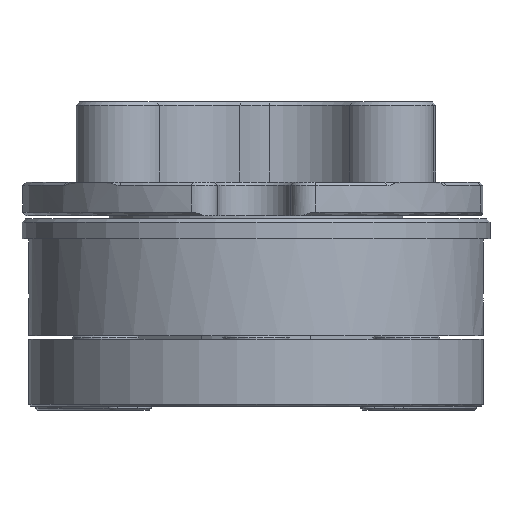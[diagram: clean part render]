
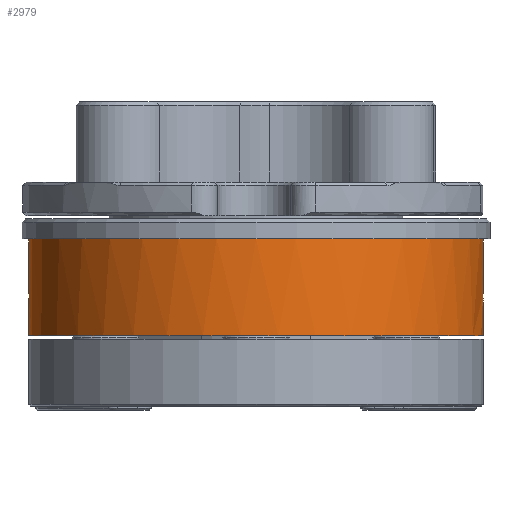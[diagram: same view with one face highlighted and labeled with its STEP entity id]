
A CAD part, left-side view. The second image highlights one B-rep face of the part: STEP entity #2979.
In plain terms, the highlighted cylindrical face has radius 34 mm (diameter 68 mm), a full revolution.
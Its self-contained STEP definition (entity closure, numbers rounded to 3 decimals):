
#1862=B_SPLINE_CURVE_WITH_KNOTS('',3,(#11817,#11818,#11819,#11820,#11821,
#11822,#11823,#11824,#11825,#11826,#11827,#11828,#11829),.UNSPECIFIED.,
 .T.,.F.,(1,3,3,3,3,3,1),(-0.25,0.,0.25,0.5,0.75,1.,1.25),.UNSPECIFIED.);
#1863=B_SPLINE_CURVE_WITH_KNOTS('',3,(#11867,#11868,#11869,#11870,#11871,
#11872,#11873,#11874,#11875,#11876,#11877,#11878,#11879),.UNSPECIFIED.,
 .T.,.F.,(1,3,3,3,3,3,1),(-0.25,0.,0.25,0.5,0.75,1.,1.25),.UNSPECIFIED.);
#1864=B_SPLINE_CURVE_WITH_KNOTS('',3,(#11922,#11923,#11924,#11925,#11926,
#11927,#11928,#11929,#11930,#11931),.UNSPECIFIED.,.F.,.F.,(4,3,3,4),(0.,
0.327,0.817,1.),.UNSPECIFIED.);
#1865=B_SPLINE_CURVE_WITH_KNOTS('',3,(#11939,#11940,#11941,#11942,#11943,
#11944,#11945),.UNSPECIFIED.,.F.,.F.,(4,3,4),(0.,0.309,1.),
 .UNSPECIFIED.);
#2093=CYLINDRICAL_SURFACE('',#8432,34.);
#2308=FACE_BOUND('',#3877,.T.);
#2309=FACE_BOUND('',#3878,.T.);
#2310=FACE_BOUND('',#3879,.T.);
#2311=FACE_BOUND('',#3880,.T.);
#2568=CIRCLE('',#8413,34.);
#2574=CIRCLE('',#8422,34.);
#2578=CIRCLE('',#8428,34.);
#2579=CIRCLE('',#8429,34.);
#2580=CIRCLE('',#8431,34.);
#2979=ADVANCED_FACE('',(#2308,#2309,#2310,#2311),#2093,.T.);
#3877=EDGE_LOOP('',(#5128));
#3878=EDGE_LOOP('',(#5129));
#3879=EDGE_LOOP('',(#5130,#5131,#5132,#5133,#5134,#5135,#5136,#5137));
#3880=EDGE_LOOP('',(#5138));
#5128=ORIENTED_EDGE('',*,*,#6796,.T.);
#5129=ORIENTED_EDGE('',*,*,#6797,.T.);
#5130=ORIENTED_EDGE('',*,*,#6800,.T.);
#5131=ORIENTED_EDGE('',*,*,#6802,.T.);
#5132=ORIENTED_EDGE('',*,*,#6804,.T.);
#5133=ORIENTED_EDGE('',*,*,#6816,.T.);
#5134=ORIENTED_EDGE('',*,*,#6808,.T.);
#5135=ORIENTED_EDGE('',*,*,#6810,.T.);
#5136=ORIENTED_EDGE('',*,*,#6812,.T.);
#5137=ORIENTED_EDGE('',*,*,#6815,.T.);
#5138=ORIENTED_EDGE('',*,*,#6817,.F.);
#6068=VERTEX_POINT('',#11830);
#6069=VERTEX_POINT('',#11880);
#6071=VERTEX_POINT('',#11919);
#6072=VERTEX_POINT('',#11921);
#6073=VERTEX_POINT('',#11934);
#6075=VERTEX_POINT('',#11946);
#6076=VERTEX_POINT('',#11950);
#6077=VERTEX_POINT('',#11952);
#6078=VERTEX_POINT('',#11956);
#6079=VERTEX_POINT('',#11960);
#6082=VERTEX_POINT('',#11971);
#6796=EDGE_CURVE('',#6068,#6068,#1862,.T.);
#6797=EDGE_CURVE('',#6069,#6069,#1863,.T.);
#6800=EDGE_CURVE('',#6071,#6072,#1864,.T.);
#6802=EDGE_CURVE('',#6072,#6073,#2568,.T.);
#6804=EDGE_CURVE('',#6073,#6075,#1865,.T.);
#6808=EDGE_CURVE('',#6076,#6077,#7420,.T.);
#6810=EDGE_CURVE('',#6077,#6078,#2574,.T.);
#6812=EDGE_CURVE('',#6078,#6079,#7421,.T.);
#6815=EDGE_CURVE('',#6079,#6071,#2578,.T.);
#6816=EDGE_CURVE('',#6075,#6076,#2579,.T.);
#6817=EDGE_CURVE('',#6082,#6082,#2580,.T.);
#7420=LINE('',#11953,#7857);
#7421=LINE('',#11961,#7858);
#7857=VECTOR('',#9930,1.);
#7858=VECTOR('',#9941,1.);
#8413=AXIS2_PLACEMENT_3D('',#11936,#9916,#9917);
#8422=AXIS2_PLACEMENT_3D('',#11957,#9935,#9936);
#8428=AXIS2_PLACEMENT_3D('',#11967,#9948,#9949);
#8429=AXIS2_PLACEMENT_3D('',#11968,#9950,#9951);
#8431=AXIS2_PLACEMENT_3D('',#11970,#9954,#9955);
#8432=AXIS2_PLACEMENT_3D('',#11972,#9956,#9957);
#9916=DIRECTION('',(0.,0.,1.));
#9917=DIRECTION('',(-1.,0.,0.));
#9930=DIRECTION('',(0.,0.,-1.));
#9935=DIRECTION('',(0.,0.,1.));
#9936=DIRECTION('',(0.,1.,0.));
#9941=DIRECTION('',(0.,0.,1.));
#9948=DIRECTION('',(0.,0.,1.));
#9949=DIRECTION('',(-1.,0.,0.));
#9950=DIRECTION('',(0.,0.,1.));
#9951=DIRECTION('',(-1.,0.,0.));
#9954=DIRECTION('',(0.,0.,1.));
#9955=DIRECTION('',(0.,1.,0.));
#9956=DIRECTION('',(0.,0.,-1.));
#9957=DIRECTION('',(-1.,0.,0.));
#11817=CARTESIAN_POINT('',(1.817,33.951,13.4));
#11818=CARTESIAN_POINT('',(1.816,33.951,14.388));
#11819=CARTESIAN_POINT('',(1.005,34.,15.19));
#11820=CARTESIAN_POINT('',(0.001,34.,15.191));
#11821=CARTESIAN_POINT('',(-1.003,34.,15.191));
#11822=CARTESIAN_POINT('',(-1.816,33.951,14.388));
#11823=CARTESIAN_POINT('',(-1.817,33.951,13.4));
#11824=CARTESIAN_POINT('',(-1.817,33.951,12.412));
#11825=CARTESIAN_POINT('',(-1.001,34.,11.61));
#11826=CARTESIAN_POINT('',(0.001,34.,11.609));
#11827=CARTESIAN_POINT('',(1.003,34.,11.609));
#11828=CARTESIAN_POINT('',(1.817,33.951,12.412));
#11829=CARTESIAN_POINT('',(1.817,33.951,13.4));
#11830=CARTESIAN_POINT('',(1.817,33.951,13.4));
#11867=CARTESIAN_POINT('',(-1.817,-33.951,13.4));
#11868=CARTESIAN_POINT('',(-1.816,-33.951,14.388));
#11869=CARTESIAN_POINT('',(-1.005,-34.,15.19));
#11870=CARTESIAN_POINT('',(-0.001,-34.,15.191));
#11871=CARTESIAN_POINT('',(1.003,-34.,15.191));
#11872=CARTESIAN_POINT('',(1.816,-33.951,14.388));
#11873=CARTESIAN_POINT('',(1.817,-33.951,13.4));
#11874=CARTESIAN_POINT('',(1.817,-33.951,12.412));
#11875=CARTESIAN_POINT('',(1.001,-34.,11.61));
#11876=CARTESIAN_POINT('',(-0.001,-34.,11.609));
#11877=CARTESIAN_POINT('',(-1.003,-34.,11.609));
#11878=CARTESIAN_POINT('',(-1.817,-33.951,12.412));
#11879=CARTESIAN_POINT('',(-1.817,-33.951,13.4));
#11880=CARTESIAN_POINT('',(-1.817,-33.951,13.4));
#11919=CARTESIAN_POINT('',(15.357,-30.334,14.9));
#11921=CARTESIAN_POINT('',(16.767,-29.578,15.4));
#11922=CARTESIAN_POINT('',(15.357,-30.334,14.9));
#11923=CARTESIAN_POINT('',(15.5,-30.262,14.992));
#11924=CARTESIAN_POINT('',(15.647,-30.186,15.077));
#11925=CARTESIAN_POINT('',(15.798,-30.107,15.151));
#11926=CARTESIAN_POINT('',(16.022,-29.989,15.26));
#11927=CARTESIAN_POINT('',(16.259,-29.862,15.344));
#11928=CARTESIAN_POINT('',(16.497,-29.729,15.38));
#11929=CARTESIAN_POINT('',(16.587,-29.68,15.393));
#11930=CARTESIAN_POINT('',(16.677,-29.629,15.4));
#11931=CARTESIAN_POINT('',(16.767,-29.578,15.4));
#11934=CARTESIAN_POINT('',(16.767,29.578,15.4));
#11936=CARTESIAN_POINT('',(0.,0.,15.4));
#11939=CARTESIAN_POINT('',(16.767,29.578,15.4));
#11940=CARTESIAN_POINT('',(16.615,29.664,15.4));
#11941=CARTESIAN_POINT('',(16.462,29.749,15.38));
#11942=CARTESIAN_POINT('',(16.313,29.831,15.343));
#11943=CARTESIAN_POINT('',(15.979,30.013,15.26));
#11944=CARTESIAN_POINT('',(15.658,30.182,15.093));
#11945=CARTESIAN_POINT('',(15.357,30.334,14.9));
#11946=CARTESIAN_POINT('',(15.357,30.334,14.9));
#11950=CARTESIAN_POINT('',(12.065,31.788,14.9));
#11952=CARTESIAN_POINT('',(12.065,31.788,7.4));
#11953=CARTESIAN_POINT('',(12.065,31.788,21.9));
#11956=CARTESIAN_POINT('',(12.065,-31.788,7.4));
#11957=CARTESIAN_POINT('',(0.,0.,7.4));
#11960=CARTESIAN_POINT('',(12.065,-31.788,14.9));
#11961=CARTESIAN_POINT('',(12.065,-31.788,21.9));
#11967=CARTESIAN_POINT('',(0.,0.,14.9));
#11968=CARTESIAN_POINT('',(0.,0.,14.9));
#11970=CARTESIAN_POINT('',(0.,0.,21.9));
#11971=CARTESIAN_POINT('',(0.,34.,21.9));
#11972=CARTESIAN_POINT('',(0.,0.,21.9));
